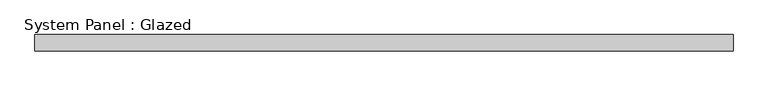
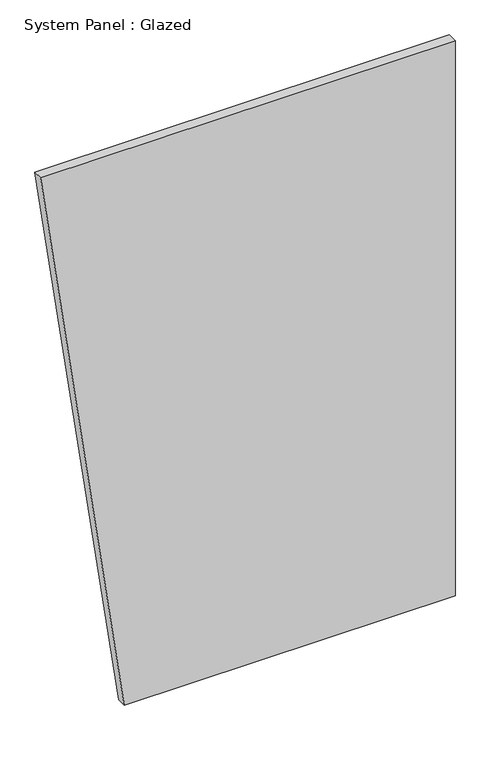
"""IFC4 building model written with IfcOpenShell, lengths in millimetres: plate geometry, System Panel : Glazed."""

from ifc_helpers import new_model, si_unit, frame, origin, place, context, project, spatial, polyline, outline, extrude, source, transform, mapped, element, save


def system_panel_glazed_654f78e0(model_context):
    return source(origin(), model_context, "Body", "SweptSolid", [
        extrude(outline(polyline([(0.0, -320.8855185), (0.0, 537.9308736), (1524.0, 537.9308736), (1524.0, -537.9308736), (0.0, -320.8855185)])), frame((0.0, 19.05, 0.0), z_axis=(0.0, 1.0, 0.0), x_axis=(0.0, 0.0, 1.0)), (0.0, 0.0, 1.0), 25.4),
    ])


if __name__ == "__main__":
    model = new_model("IFC4")
    model_context = context("Model", 3, world=origin())
    ifc_project = project(units=[si_unit("LENGTHUNIT", "METRE", prefix="MILLI")], contexts=[model_context])
    site = spatial("IfcSite", under=ifc_project)
    building = spatial("IfcBuilding", under=site)
    placement = place(None, origin())
    system_panel_glazed_shape = system_panel_glazed_654f78e0(model_context)
    element("IfcPlate", 1, ObjectType="System Panel : Glazed", at=placement, inside=building, context=model_context, shape_type="MappedRepresentation", body=[
        mapped(system_panel_glazed_shape, transform((0.0, 0.0, 0.0), x_axis=(1.0, 0.0, 0.0), y_axis=(0.0, 1.0, 0.0), z_axis=(0.0, 0.0, 1.0))),
    ])
    save(model, "model.ifc")
